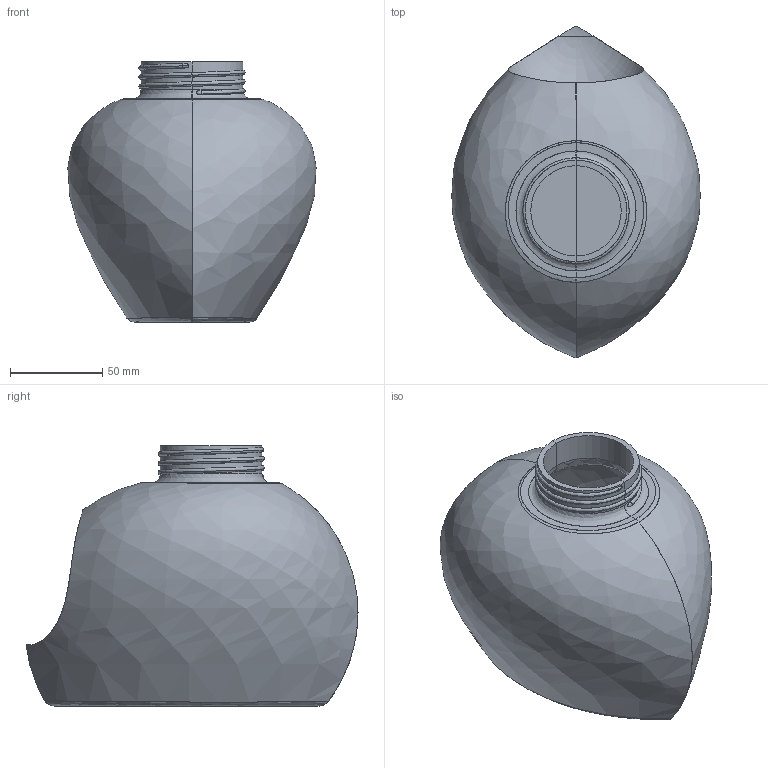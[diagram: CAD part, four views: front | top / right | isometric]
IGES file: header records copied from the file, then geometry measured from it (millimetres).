
Start section: START RECORD GO HERE.
Global section: file name: c1-Valentini_Kevin-solucion-posible.igs; native system: IBM CATIA IGES - CATIA Version 5 Release 19 ; preprocessor: CATIA Version 5 Release 19 ; author: andres.garcia; organization: IQS; date: 20200131.143944; units: millimetre
Bounding box: 134.52 x 179.83 x 141 mm (x, y, z)
Surface area: 138812.5 mm2 (no closed solid volume)
Topology: 0 solids, 0 shells, 54 faces, 252 edges, 248 vertices
Faces by surface type: bspline 32, revolution 16, plane 6
